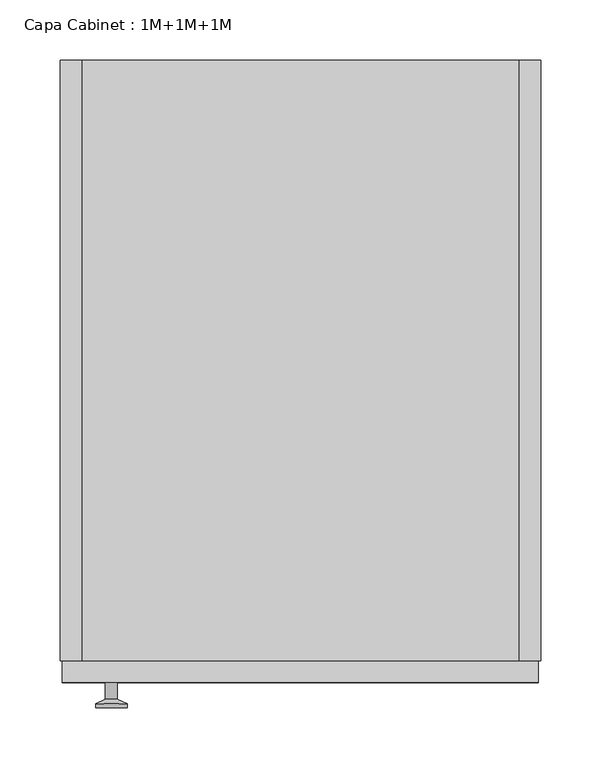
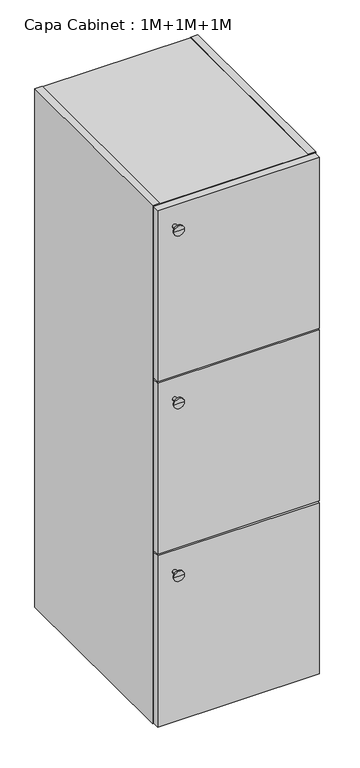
"""IFC4 building model written with IfcOpenShell, lengths in millimetres: furniture geometry, Capa Cabinet : 1M+1M+1M."""

from ifc_helpers import new_model, si_unit, frame, origin, place, context, project, spatial, polyline, circle_curve, outline, extrude, faceted_brep, source, transform, mapped, element, save
from ifc_brep_helpers import plane_surface, cylinder_surface, revolved_surface, advanced_brep


def capa_cabinet_1m_1m_1m_711cceb7(model_context):
    return source(origin(), model_context, "Body", "SolidModel", [
        extrude(outline(polyline([(182.0, 0.0), (-182.0, 0.0), (-182.0, 490.0), (182.0, 490.0), (182.0, 0.0)])), frame((0.0, 0.0, 889.0), z_axis=(0.0, 0.0, 1.0), x_axis=(1.0, 0.0, 0.0)), (0.0, 0.0, 1.0), 14.0),
        extrude(outline(polyline([(182.0, 0.0), (-182.0, 0.0), (-182.0, 490.0), (182.0, 490.0), (182.0, 0.0)])), frame((0.0, 0.0, 441.0), z_axis=(0.0, 0.0, 1.0), x_axis=(1.0, 0.0, 0.0)), (0.0, 0.0, 1.0), 14.0),
        faceted_brep([(-182.0, 500.0, 1344.0), (-182.0, 500.0, 1343.0), (182.0, 500.0, 1343.0), (182.0, 500.0, 1344.0), (200.0, 500.0, 1344.0), (200.0, 500.0, 0.0), (182.0, 500.0, 0.0), (182.0, 500.0, 1.0), (-182.0, 500.0, 1.0), (-182.0, 500.0, 0.0), (-200.0, 500.0, 0.0), (-200.0, 500.0, 1344.0), (182.0, 490.0, 19.0), (182.0, 490.0, 1325.0), (-182.0, 490.0, 1325.0), (-182.0, 490.0, 19.0), (-182.0, 0.0, 1344.0), (-200.0, 0.0, 1344.0), (-200.0, 0.0, 0.0), (-182.0, 0.0, 0.0), (-182.0, 0.0, 1.0), (182.0, 0.0, 1.0), (182.0, 0.0, 0.0), (200.0, 0.0, 0.0), (200.0, 0.0, 1344.0), (182.0, 0.0, 1344.0), (182.0, 0.0, 1343.0), (-182.0, 0.0, 1343.0), (182.0, 0.0, 1325.0), (182.0, 0.0, 19.0), (-182.0, 0.0, 19.0), (-182.0, 0.0, 1325.0)], [[[0, 1, 2, 3, 4, 5, 6, 7, 8, 9, 10, 11]], [[12, 13, 14, 15]], [[16, 17, 18, 19, 20, 21, 22, 23, 24, 25, 26, 27], [28, 29, 30, 31]], [[17, 16, 0, 11]], [[18, 17, 11, 10]], [[23, 22, 6, 5]], [[24, 23, 5, 4]], [[19, 18, 10, 9]], [[20, 19, 9, 8]], [[21, 20, 8, 7]], [[22, 21, 7, 6]], [[25, 24, 4, 3]], [[26, 25, 3, 2]], [[27, 26, 2, 1]], [[16, 27, 1, 0]], [[29, 28, 13, 12]], [[30, 29, 12, 15]], [[31, 30, 15, 14]], [[28, 31, 14, 13]]]),
        extrude(outline(polyline([(198.0, -18.0), (-198.0, -18.0), (-198.0, 0.0), (198.0, 0.0), (198.0, -18.0)])), frame((0.0, 0.0, 898.0), z_axis=(0.0, 0.0, 1.0), x_axis=(1.0, 0.0, 0.0)), (0.0, 0.0, 1.0), 444.0),
        advanced_brep(
        [(-157.2922597, -18.0, 1288.0), (-152.2922597, -18.0, 1288.0), (-162.2922597, -18.0, 1288.0), (-170.2922597, -38.997134, 1288.0), (-144.2922597, -38.997134, 1288.0), (-157.2922597, -38.997134, 1288.0), (-170.2922597, -35.5419417, 1288.0), (-144.2922597, -35.5419417, 1288.0), (-162.2922597, -31.8114804, 1288.0), (-152.2922597, -31.8114804, 1288.0)],
        [
            (0, 1),
            (1, 2, circle_curve(frame((-157.2922597, -18.0, 1288.0), z_axis=(0.0, 1.0, 0.0), x_axis=(1.0, 0.0, 0.0)), 5.0)),
            (2, 0),
            (2, 1, circle_curve(frame((-157.2922597, -18.0, 1288.0), z_axis=(0.0, 1.0, 0.0), x_axis=(1.0, 0.0, 0.0)), 5.0)),
            (3, 4, circle_curve(frame((-157.2922597, -38.997134, 1288.0), z_axis=(0.0, -1.0, 0.0), x_axis=(1.0, 0.0, 0.0)), 13.0)),
            (4, 5),
            (5, 3),
            (4, 3, circle_curve(frame((-157.2922597, -38.997134, 1288.0), z_axis=(0.0, -1.0, 0.0), x_axis=(1.0, 0.0, 0.0)), 13.0)),
            (6, 7, circle_curve(frame((-157.2922597, -35.5419417, 1288.0), z_axis=(0.0, -1.0, 0.0), x_axis=(1.0, 0.0, 0.0)), 13.0)),
            (7, 4),
            (3, 6),
            (7, 6, circle_curve(frame((-157.2922597, -35.5419417, 1288.0), z_axis=(0.0, -1.0, 0.0), x_axis=(1.0, 0.0, 0.0)), 13.0)),
            (8, 9, circle_curve(frame((-157.2922597, -31.8114804, 1288.0), z_axis=(0.0, -1.0, 0.0), x_axis=(1.0, 0.0, 0.0)), 5.0)),
            (9, 7),
            (6, 8),
            (9, 8, circle_curve(frame((-157.2922597, -31.8114804, 1288.0), z_axis=(0.0, -1.0, 0.0), x_axis=(1.0, 0.0, 0.0)), 5.0)),
            (1, 9),
            (8, 2),
        ],
        [
            plane_surface(frame((-157.2922597, -18.0, 1288.0), z_axis=(0.0, 1.0, 0.0), x_axis=(1.0, 0.0, 0.0))),
            plane_surface(frame((-157.2922597, -38.997134, 1288.0), z_axis=(0.0, -1.0, 0.0), x_axis=(1.0, 0.0, 0.0))),
            cylinder_surface(frame((-157.2922597, -38.997134, 1288.0), z_axis=(0.0, 1.0, 0.0), x_axis=(1.0, 0.0, 0.0)), 13.0),
            revolved_surface(polyline([(-144.2922597, -35.5419417, 1288.0), (-152.2922597, -31.8114804, 1288.0)]), (-157.2922597, -38.997134, 1288.0), (0.0, 1.0, 0.0)),
            cylinder_surface(frame((-157.2922597, -38.997134, 1288.0), z_axis=(0.0, 1.0, 0.0), x_axis=(1.0, 0.0, 0.0)), 5.0),
        ],
        [
            (0, [[1, 2, 3]]),
            (0, [[-3, 4, -1]]),
            (1, [[5, 6, 7]]),
            (1, [[8, -7, -6]]),
            (2, [[9, 10, -5, 11]]),
            (2, [[12, -11, -8, -10]]),
            (3, [[13, 14, -9, 15]]),
            (3, [[16, -15, -12, -14]]),
            (4, [[-2, 17, -13, 18]]),
            (4, [[-4, -18, -16, -17]]),
        ],
    ),
        extrude(outline(polyline([(198.0, -18.0), (-198.0, -18.0), (-198.0, 0.0), (198.0, 0.0), (198.0, -18.0)])), frame((0.0, 0.0, 450.0), z_axis=(0.0, 0.0, 1.0), x_axis=(1.0, 0.0, 0.0)), (0.0, 0.0, 1.0), 444.0),
        advanced_brep(
        [(-157.2922597, -18.0, 840.0), (-152.2922597, -18.0, 840.0), (-162.2922597, -18.0, 840.0), (-170.2922597, -38.997134, 840.0), (-144.2922597, -38.997134, 840.0), (-157.2922597, -38.997134, 840.0), (-170.2922597, -35.5419417, 840.0), (-144.2922597, -35.5419417, 840.0), (-162.2922597, -31.8114804, 840.0), (-152.2922597, -31.8114804, 840.0)],
        [
            (0, 1),
            (1, 2, circle_curve(frame((-157.2922597, -18.0, 840.0), z_axis=(0.0, 1.0, 0.0), x_axis=(1.0, 0.0, 0.0)), 5.0)),
            (2, 0),
            (2, 1, circle_curve(frame((-157.2922597, -18.0, 840.0), z_axis=(0.0, 1.0, 0.0), x_axis=(1.0, 0.0, 0.0)), 5.0)),
            (3, 4, circle_curve(frame((-157.2922597, -38.997134, 840.0), z_axis=(0.0, -1.0, 0.0), x_axis=(1.0, 0.0, 0.0)), 13.0)),
            (4, 5),
            (5, 3),
            (4, 3, circle_curve(frame((-157.2922597, -38.997134, 840.0), z_axis=(0.0, -1.0, 0.0), x_axis=(1.0, 0.0, 0.0)), 13.0)),
            (6, 7, circle_curve(frame((-157.2922597, -35.5419417, 840.0), z_axis=(0.0, -1.0, 0.0), x_axis=(1.0, 0.0, 0.0)), 13.0)),
            (7, 4),
            (3, 6),
            (7, 6, circle_curve(frame((-157.2922597, -35.5419417, 840.0), z_axis=(0.0, -1.0, 0.0), x_axis=(1.0, 0.0, 0.0)), 13.0)),
            (8, 9, circle_curve(frame((-157.2922597, -31.8114804, 840.0), z_axis=(0.0, -1.0, 0.0), x_axis=(1.0, 0.0, 0.0)), 5.0)),
            (9, 7),
            (6, 8),
            (9, 8, circle_curve(frame((-157.2922597, -31.8114804, 840.0), z_axis=(0.0, -1.0, 0.0), x_axis=(1.0, 0.0, 0.0)), 5.0)),
            (1, 9),
            (8, 2),
        ],
        [
            plane_surface(frame((-157.2922597, -18.0, 840.0), z_axis=(0.0, 1.0, 0.0), x_axis=(1.0, 0.0, 0.0))),
            plane_surface(frame((-157.2922597, -38.997134, 840.0), z_axis=(0.0, -1.0, 0.0), x_axis=(1.0, 0.0, 0.0))),
            cylinder_surface(frame((-157.2922597, -38.997134, 840.0), z_axis=(0.0, 1.0, 0.0), x_axis=(1.0, 0.0, 0.0)), 13.0),
            revolved_surface(polyline([(-144.2922597, -35.5419417, 840.0), (-152.2922597, -31.8114804, 840.0)]), (-157.2922597, -38.997134, 840.0), (0.0, 1.0, 0.0)),
            cylinder_surface(frame((-157.2922597, -38.997134, 840.0), z_axis=(0.0, 1.0, 0.0), x_axis=(1.0, 0.0, 0.0)), 5.0),
        ],
        [
            (0, [[1, 2, 3]]),
            (0, [[-3, 4, -1]]),
            (1, [[5, 6, 7]]),
            (1, [[8, -7, -6]]),
            (2, [[9, 10, -5, 11]]),
            (2, [[12, -11, -8, -10]]),
            (3, [[13, 14, -9, 15]]),
            (3, [[16, -15, -12, -14]]),
            (4, [[-2, 17, -13, 18]]),
            (4, [[-4, -18, -16, -17]]),
        ],
    ),
        extrude(outline(polyline([(198.0, -18.0), (-198.0, -18.0), (-198.0, 0.0), (198.0, 0.0), (198.0, -18.0)])), frame((0.0, 0.0, 2.0), z_axis=(0.0, 0.0, 1.0), x_axis=(1.0, 0.0, 0.0)), (0.0, 0.0, 1.0), 444.0),
        advanced_brep(
        [(-157.2922597, -18.0, 392.0), (-152.2922597, -18.0, 392.0), (-162.2922597, -18.0, 392.0), (-170.2922597, -38.997134, 392.0), (-144.2922597, -38.997134, 392.0), (-157.2922597, -38.997134, 392.0), (-170.2922597, -35.5419417, 392.0), (-144.2922597, -35.5419417, 392.0), (-162.2922597, -31.8114804, 392.0), (-152.2922597, -31.8114804, 392.0)],
        [
            (0, 1),
            (1, 2, circle_curve(frame((-157.2922597, -18.0, 392.0), z_axis=(0.0, 1.0, 0.0), x_axis=(1.0, 0.0, 0.0)), 5.0)),
            (2, 0),
            (2, 1, circle_curve(frame((-157.2922597, -18.0, 392.0), z_axis=(0.0, 1.0, 0.0), x_axis=(1.0, 0.0, 0.0)), 5.0)),
            (3, 4, circle_curve(frame((-157.2922597, -38.997134, 392.0), z_axis=(0.0, -1.0, 0.0), x_axis=(1.0, 0.0, 0.0)), 13.0)),
            (4, 5),
            (5, 3),
            (4, 3, circle_curve(frame((-157.2922597, -38.997134, 392.0), z_axis=(0.0, -1.0, 0.0), x_axis=(1.0, 0.0, 0.0)), 13.0)),
            (6, 7, circle_curve(frame((-157.2922597, -35.5419417, 392.0), z_axis=(0.0, -1.0, 0.0), x_axis=(1.0, 0.0, 0.0)), 13.0)),
            (7, 4),
            (3, 6),
            (7, 6, circle_curve(frame((-157.2922597, -35.5419417, 392.0), z_axis=(0.0, -1.0, 0.0), x_axis=(1.0, 0.0, 0.0)), 13.0)),
            (8, 9, circle_curve(frame((-157.2922597, -31.8114804, 392.0), z_axis=(0.0, -1.0, 0.0), x_axis=(1.0, 0.0, 0.0)), 5.0)),
            (9, 7),
            (6, 8),
            (9, 8, circle_curve(frame((-157.2922597, -31.8114804, 392.0), z_axis=(0.0, -1.0, 0.0), x_axis=(1.0, 0.0, 0.0)), 5.0)),
            (1, 9),
            (8, 2),
        ],
        [
            plane_surface(frame((-157.2922597, -18.0, 392.0), z_axis=(0.0, 1.0, 0.0), x_axis=(1.0, 0.0, 0.0))),
            plane_surface(frame((-157.2922597, -38.997134, 392.0), z_axis=(0.0, -1.0, 0.0), x_axis=(1.0, 0.0, 0.0))),
            cylinder_surface(frame((-157.2922597, -38.997134, 392.0), z_axis=(0.0, 1.0, 0.0), x_axis=(1.0, 0.0, 0.0)), 13.0),
            revolved_surface(polyline([(-144.2922597, -35.5419417, 392.0), (-152.2922597, -31.8114804, 392.0)]), (-157.2922597, -38.997134, 392.0), (0.0, 1.0, 0.0)),
            cylinder_surface(frame((-157.2922597, -38.997134, 392.0), z_axis=(0.0, 1.0, 0.0), x_axis=(1.0, 0.0, 0.0)), 5.0),
        ],
        [
            (0, [[1, 2, 3]]),
            (0, [[-3, 4, -1]]),
            (1, [[5, 6, 7]]),
            (1, [[8, -7, -6]]),
            (2, [[9, 10, -5, 11]]),
            (2, [[12, -11, -8, -10]]),
            (3, [[13, 14, -9, 15]]),
            (3, [[16, -15, -12, -14]]),
            (4, [[-2, 17, -13, 18]]),
            (4, [[-4, -18, -16, -17]]),
        ],
    ),
    ])


if __name__ == "__main__":
    model = new_model("IFC4")
    model_context = context("Model", 3, world=origin())
    ifc_project = project(units=[si_unit("LENGTHUNIT", "METRE", prefix="MILLI")], contexts=[model_context])
    site = spatial("IfcSite", under=ifc_project)
    building = spatial("IfcBuilding", under=site)
    placement = place(None, origin())
    capa_cabinet_1m_1m_1m_shape = capa_cabinet_1m_1m_1m_711cceb7(model_context)
    element("IfcFurniture", 1, ObjectType="Capa Cabinet : 1M+1M+1M", at=placement, inside=building, context=model_context, shape_type="MappedRepresentation", body=[
        mapped(capa_cabinet_1m_1m_1m_shape, transform((0.0, 0.0, 0.0), x_axis=(1.0, 0.0, 0.0), y_axis=(0.0, 1.0, 0.0), z_axis=(0.0, 0.0, 1.0))),
    ])
    save(model, "model.ifc")
